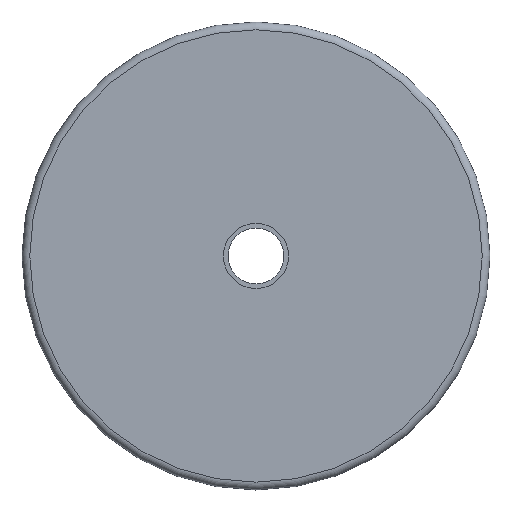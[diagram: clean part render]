
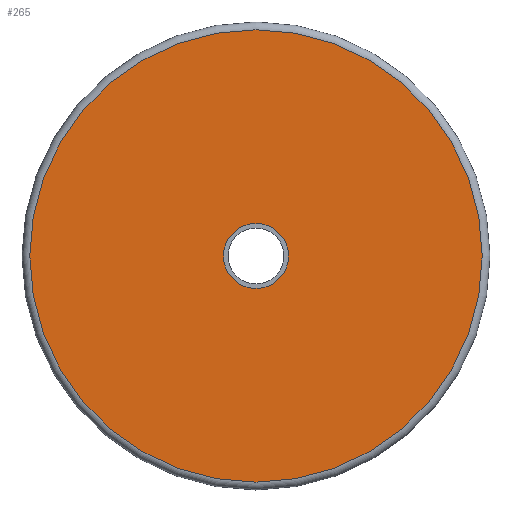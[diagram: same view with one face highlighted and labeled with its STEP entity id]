
A CAD part, top view. The second image highlights one B-rep face of the part: STEP entity #265.
In plain terms, the highlighted planar face has unit normal (0, 0, 1).
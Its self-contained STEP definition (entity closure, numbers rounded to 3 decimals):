
#84 = TOROIDAL_SURFACE('',#85,17.4,0.6);
#85 = AXIS2_PLACEMENT_3D('',#86,#87,#88);
#86 = CARTESIAN_POINT('',(0.,0.,0.9));
#87 = DIRECTION('',(0.,0.,1.));
#88 = DIRECTION('',(1.,0.,-0.));
#181 = VERTEX_POINT('',#182);
#182 = CARTESIAN_POINT('',(17.4,0.,1.5));
#204 = EDGE_CURVE('',#181,#181,#205,.T.);
#205 = SURFACE_CURVE('',#206,(#211,#218),.PCURVE_S1.);
#206 = CIRCLE('',#207,17.4);
#207 = AXIS2_PLACEMENT_3D('',#208,#209,#210);
#208 = CARTESIAN_POINT('',(0.,0.,1.5));
#209 = DIRECTION('',(0.,0.,1.));
#210 = DIRECTION('',(1.,0.,-0.));
#211 = PCURVE('',#84,#212);
#212 = DEFINITIONAL_REPRESENTATION('',(#213),#217);
#213 = LINE('',#214,#215);
#214 = CARTESIAN_POINT('',(0.,1.571));
#215 = VECTOR('',#216,1.);
#216 = DIRECTION('',(1.,0.));
#217 = ( GEOMETRIC_REPRESENTATION_CONTEXT(2) 
PARAMETRIC_REPRESENTATION_CONTEXT() REPRESENTATION_CONTEXT('2D SPACE',''
  ) );
#218 = PCURVE('',#219,#224);
#219 = PLANE('',#220);
#220 = AXIS2_PLACEMENT_3D('',#221,#222,#223);
#221 = CARTESIAN_POINT('',(0.,0.,1.5));
#222 = DIRECTION('',(0.,0.,1.));
#223 = DIRECTION('',(1.,0.,-0.));
#224 = DEFINITIONAL_REPRESENTATION('',(#225),#229);
#225 = CIRCLE('',#226,17.4);
#226 = AXIS2_PLACEMENT_2D('',#227,#228);
#227 = CARTESIAN_POINT('',(0.,0.));
#228 = DIRECTION('',(1.,0.));
#229 = ( GEOMETRIC_REPRESENTATION_CONTEXT(2) 
PARAMETRIC_REPRESENTATION_CONTEXT() REPRESENTATION_CONTEXT('2D SPACE',''
  ) );
#265 = ADVANCED_FACE('',(#266,#269),#219,.T.);
#266 = FACE_BOUND('',#267,.T.);
#267 = EDGE_LOOP('',(#268));
#268 = ORIENTED_EDGE('',*,*,#204,.T.);
#269 = FACE_BOUND('',#270,.T.);
#270 = EDGE_LOOP('',(#271));
#271 = ORIENTED_EDGE('',*,*,#272,.F.);
#272 = EDGE_CURVE('',#273,#273,#275,.T.);
#273 = VERTEX_POINT('',#274);
#274 = CARTESIAN_POINT('',(2.5,0.,1.5));
#275 = SURFACE_CURVE('',#276,(#281,#288),.PCURVE_S1.);
#276 = CIRCLE('',#277,2.5);
#277 = AXIS2_PLACEMENT_3D('',#278,#279,#280);
#278 = CARTESIAN_POINT('',(0.,0.,1.5));
#279 = DIRECTION('',(0.,0.,1.));
#280 = DIRECTION('',(1.,0.,-0.));
#281 = PCURVE('',#219,#282);
#282 = DEFINITIONAL_REPRESENTATION('',(#283),#287);
#283 = CIRCLE('',#284,2.5);
#284 = AXIS2_PLACEMENT_2D('',#285,#286);
#285 = CARTESIAN_POINT('',(0.,0.));
#286 = DIRECTION('',(1.,0.));
#287 = ( GEOMETRIC_REPRESENTATION_CONTEXT(2) 
PARAMETRIC_REPRESENTATION_CONTEXT() REPRESENTATION_CONTEXT('2D SPACE',''
  ) );
#288 = PCURVE('',#289,#294);
#289 = CYLINDRICAL_SURFACE('',#290,2.5);
#290 = AXIS2_PLACEMENT_3D('',#291,#292,#293);
#291 = CARTESIAN_POINT('',(0.,0.,1.49));
#292 = DIRECTION('',(0.,0.,1.));
#293 = DIRECTION('',(1.,0.,-0.));
#294 = DEFINITIONAL_REPRESENTATION('',(#295),#299);
#295 = LINE('',#296,#297);
#296 = CARTESIAN_POINT('',(0.,0.01));
#297 = VECTOR('',#298,1.);
#298 = DIRECTION('',(1.,0.));
#299 = ( GEOMETRIC_REPRESENTATION_CONTEXT(2) 
PARAMETRIC_REPRESENTATION_CONTEXT() REPRESENTATION_CONTEXT('2D SPACE',''
  ) );
